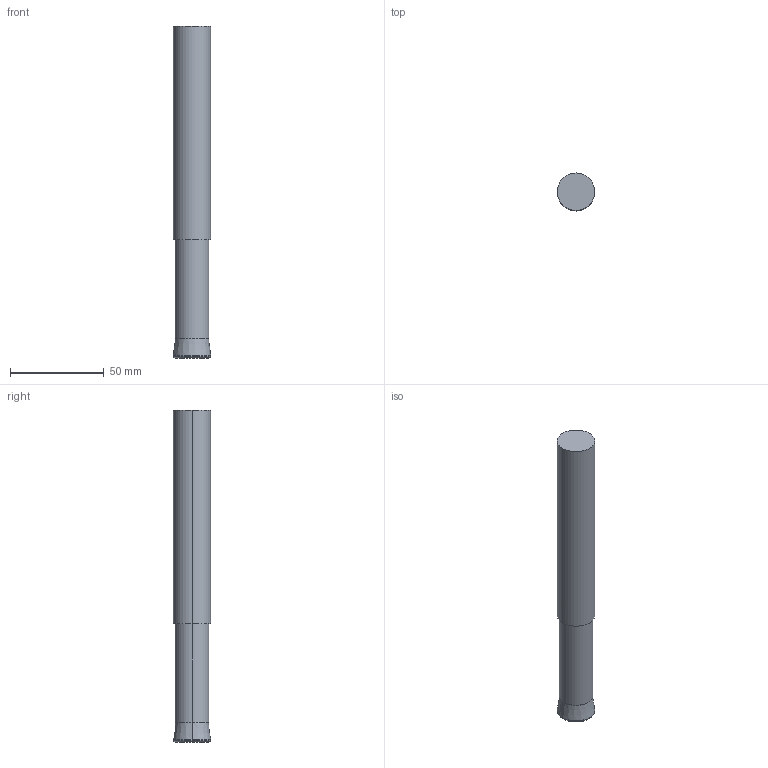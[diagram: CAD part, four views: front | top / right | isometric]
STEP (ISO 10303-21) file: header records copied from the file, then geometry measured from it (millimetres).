
FILE_DESCRIPTION(('STEP AP214'),'1');
FILE_NAME('cctmp_BDFE3623-B7C6-4094-904E-49022994C7BA_2020_10_01_10_22_18_0999..stp','2020-10-01T08:22:19',('Meusburger Georg GmbH & Co KG'),('CADClick - www.CADClick.com'),'Spatial InterOp 3D',' ','unknown authorization');
FILE_SCHEMA(('AUTOMOTIVE_DESIGN { 1 0 10303 214 1 1 1 1 }'));
Length unit declared in the file: millimetre
Products named in the file (1): WZT1702_20_177
Bounding box: 20.02 x 20.02 x 177 mm (x, y, z)
Volume: 52113 mm3; surface area: 11433.8 mm2
Topology: 1 solids, 1 shells, 14 faces, 26 edges, 16 vertices
Faces by surface type: torus 4, cylinder 4, plane 4, cone 2
Entity records: 494 total; most frequent: DIRECTION 76, CARTESIAN_POINT 57, ORIENTED_EDGE 52, AXIS2_PLACEMENT_3D 35, EDGE_CURVE 26, CIRCLE 20, EDGE_LOOP 16, VERTEX_POINT 16
